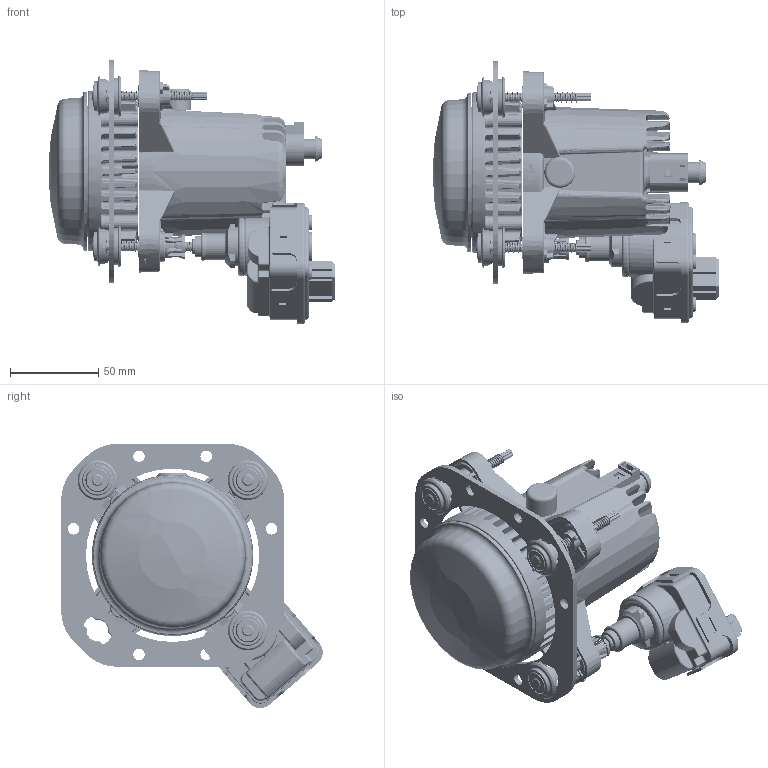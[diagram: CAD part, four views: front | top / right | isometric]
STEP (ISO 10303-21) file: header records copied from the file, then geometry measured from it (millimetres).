
FILE_DESCRIPTION(('CATIA V5 STEP Exchange','CAx-IF Rec.Pracs.--- Model Styling and Organization---1.5--- 2016-08-15','CAx-IF Rec.Pracs.---Supplemental Geometry---1.0---2011-11-01','CAx-IF Rec.Pracs.--- Composite Materials ---1.1---2010-07-15'),'2;1');
FILE_NAME('E:\tmp\ddx\2011204\3D_data_LED_low_beam_headlamp_L4060_1BL 012 488-00.stp','2022-01-18T07:34:43+00:00',('none'),('none'),'CATIA Version 5-6 Release 2020 SP3 HF9','CATIA V5 STEP AP214 Edition 3 v2','none');
FILE_SCHEMA(('AUTOMOTIVE_DESIGN { 1 0 10303 214 3 1 1 1 }'));
Length unit declared in the file: millimetre
Products named in the file (1): 10001212320_D10_001
Bounding box: 162.24 x 147.92 x 149.37 mm (x, y, z)
Volume: 165281.6 mm3; surface area: 163376.3 mm2
Topology: 20 solids, 36 shells, 8575 faces, 20917 edges, 11225 vertices
Faces by surface type: bspline 4655, cylinder 1304, plane 924, cone 729, torus 677, sphere 235, revolution 48, extrusion 3
Entity records: 420389 total; most frequent: CARTESIAN_POINT 276251, ORIENTED_EDGE 38817, EDGE_CURVE 19502, B_SPLINE_CURVE_WITH_KNOTS 13160, DIRECTION 12151, VERTEX_POINT 10996, EDGE_LOOP 8731, ADVANCED_FACE 8575
